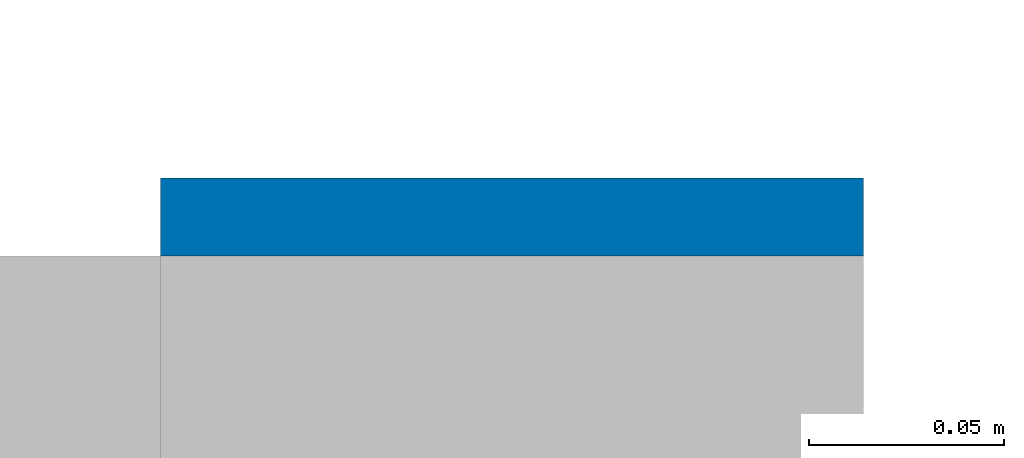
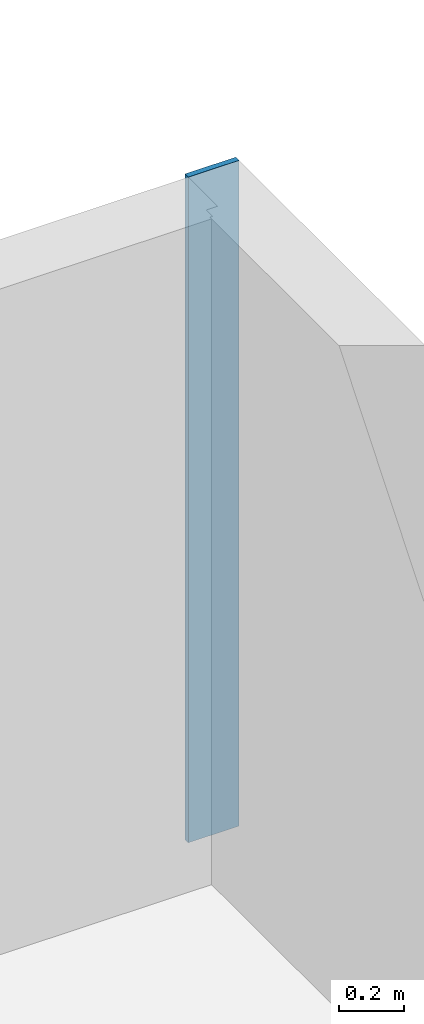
# One storey, part 7 of 10: 1 wall.
"""IFC2X3 building model written with IfcOpenShell, lengths in metres."""

import ifcopenshell
import ifcopenshell.guid

model = None  # the IFC model being written
_history = None  # IfcOwnerHistory: only IFC2X3 demands one
_inside = {}  # id of a spatial element -> (the spatial element, [elements in it])
_under = {}  # id of a project, library or spatial element -> (it, [spatial elements below it])
_declared = {}  # id of a project -> (the project, [libraries it declares])
_typed = {}  # id of a type object -> (the type object, [elements of that type])
_made_of = {}  # id of a material, layer set ... -> (it, [elements and type objects made of it])


def new_model(schema):
    """Start an empty IFC model of exactly this schema.

    Asked for "IFC4X3", IfcOpenShell would pick the latest addendum, in which some entities
    have other attributes; the version numbers below select the first issue.
    IFC2X3 requires an IfcOwnerHistory on every rooted entity: one is made here for all.
    """
    global model, _history
    if schema == "IFC4X3":
        model = ifcopenshell.file(schema_version=(4, 3, 0, 0))
    else:
        model = ifcopenshell.file(schema=schema)
    _inside.clear()
    _under.clear()
    _declared.clear()
    _typed.clear()
    _made_of.clear()
    _history = None
    if model.schema == "IFC2X3":
        org = make("IfcOrganization", Name="unknown")
        user = make(
            "IfcPersonAndOrganization",
            ThePerson=make("IfcPerson", FamilyName="unknown"),
            TheOrganization=org,
        )
        app = make(
            "IfcApplication",
            ApplicationDeveloper=org,
            Version="unknown",
            ApplicationFullName="unknown",
            ApplicationIdentifier="unknown",
        )
        _history = make(
            "IfcOwnerHistory",
            OwningUser=user,
            OwningApplication=app,
            ChangeAction="ADDED",
            CreationDate=0,
        )
    return model


def make(cls, **values):
    """One entity of the class cls with the attributes given. An attribute that is None is left unset."""
    return model.create_entity(
        cls, **{name: value for name, value in values.items() if value is not None}
    )


def rooted(cls, **values):
    """An entity with a GlobalId (a new one), such as an element, a storey or a relation."""
    return make(cls, GlobalId=ifcopenshell.guid.new(), OwnerHistory=_history, **values)


def si_unit(unit_type, name, prefix=None):
    """IfcSIUnit, for example si_unit("LENGTHUNIT", "METRE", prefix="MILLI")."""
    return make("IfcSIUnit", UnitType=unit_type, Prefix=prefix, Name=name)


def assignment(units):
    """IfcUnitAssignment: the units of a project."""
    return None if units is None else make("IfcUnitAssignment", Units=units)


def point(xyz):
    """IfcCartesianPoint."""
    return None if xyz is None else make("IfcCartesianPoint", Coordinates=xyz)


def direction(xyz):
    """IfcDirection."""
    return None if xyz is None else make("IfcDirection", DirectionRatios=xyz)


def frame(location, z_axis=None, x_axis=None):
    """IfcAxis2Placement3D, a coordinate frame: its origin and axes. An axis left out is left unset."""
    return make(
        "IfcAxis2Placement3D",
        Location=point(location),
        Axis=direction(z_axis),
        RefDirection=direction(x_axis),
    )


def frame_2d(location, x_axis=None):
    """IfcAxis2Placement2D, a coordinate frame in the plane: its origin and x axis."""
    return make(
        "IfcAxis2Placement2D", Location=point(location), RefDirection=direction(x_axis)
    )


def origin():
    """The frame at (0, 0, 0) with its axes left unset."""
    return frame((0.0, 0.0, 0.0))


def place(relative_to, where):
    """IfcLocalPlacement: puts the frame where relative to a parent placement (None: the world)."""
    return make(
        "IfcLocalPlacement", PlacementRelTo=relative_to, RelativePlacement=where
    )


def context(
    kind, dimensions, precision=None, world=None, true_north=None, identifier=None
):
    """IfcGeometricRepresentationContext, for example the 3D "Model" context."""
    return make(
        "IfcGeometricRepresentationContext",
        ContextIdentifier=identifier,
        ContextType=kind,
        CoordinateSpaceDimension=dimensions,
        Precision=precision,
        WorldCoordinateSystem=world,
        TrueNorth=true_north,
    )


def project(units=None, contexts=None):
    """IfcProject with its units and contexts."""
    return rooted(
        "IfcProject",
        Name="project",
        RepresentationContexts=contexts,
        UnitsInContext=assignment(units),
    )


def spatial(cls, under=None, at=None, **own):
    """A site, building, storey or space (cls), placed at a placement, below another one or the project."""
    s = rooted(cls, ObjectPlacement=at, **own)
    if under is not None:
        _under.setdefault(under.id(), (under, []))[1].append(s)
    return s


def profile(cls, at=None, kind="AREA", **sizes):
    """A parametric profile (cls). Its sizes go by their IFC names, for example OverallWidth=200.0."""
    return make(cls, ProfileType=kind, Position=at, **sizes)


def rectangle(**sizes):
    """IfcRectangleProfileDef."""
    return profile("IfcRectangleProfileDef", **sizes)


def extrude(swept, where, along, depth):
    """IfcExtrudedAreaSolid: the profile swept, set in the frame where, extruded along a direction by depth."""
    return make(
        "IfcExtrudedAreaSolid",
        SweptArea=swept,
        Position=where,
        ExtrudedDirection=direction(along),
        Depth=depth,
    )


def shape(context_of_items, identifier, shape_type, items):
    """IfcShapeRepresentation: the items that make up one representation, for example the "Body"."""
    return make(
        "IfcShapeRepresentation",
        ContextOfItems=context_of_items,
        RepresentationIdentifier=identifier,
        RepresentationType=shape_type,
        Items=items,
    )


def made_of(thing, what):
    """Note that an element or type object is made of a material, layer set ...; save() writes the relation."""
    if what is not None:
        _made_of.setdefault(what.id(), (what, []))[1].append(thing)
    return thing


def element(
    cls,
    number,
    at=None,
    inside=None,
    cuts=None,
    type_object=None,
    material=None,
    context=None,
    identifier="Body",
    shape_type=None,
    held_by="IfcProductDefinitionShape",
    body=None,
    shapes=None,
    **own,
):
    """One element of the class cls, such as IfcWall. Its Tag is "e" and its number.

    at: its placement. inside: the storey or other place that contains it. cuts: it is an
    opening in that element (IfcRelVoidsElement). A single representation is given by context,
    identifier, shape_type and body (its items); several are given by shapes. held_by: the class
    of the entity that holds the representations. save() writes the other relations.
    """
    e = rooted(cls, Tag="e%d" % number, ObjectPlacement=at, **own)
    if body is not None:
        shapes = [shape(context, identifier, shape_type, body)]
    if shapes is not None:
        e.Representation = make(held_by, Representations=shapes)
    if inside is not None:
        _inside.setdefault(inside.id(), (inside, []))[1].append(e)
    if cuts is not None:
        rooted(
            "IfcRelVoidsElement", RelatingBuildingElement=cuts, RelatedOpeningElement=e
        )
    if type_object is not None:
        _typed.setdefault(type_object.id(), (type_object, []))[1].append(e)
    return made_of(e, material)


def aggregate(whole, parts):
    """IfcRelAggregates: a whole, such as a stair, and the parts it consists of."""
    return rooted("IfcRelAggregates", RelatingObject=whole, RelatedObjects=parts)


def save(model, path):
    """Write the relations noted so far, then the file.

    IfcRelAggregates (storeys below a building ...), IfcRelContainedInSpatialStructure (elements
    in a storey), IfcRelDefinesByType, IfcRelAssociatesMaterial and IfcRelDeclares: one each for
    every whole, place, type object, material and project.
    """
    for whole, parts in _under.values():
        aggregate(whole, parts)
    for where, things in _inside.values():
        rooted(
            "IfcRelContainedInSpatialStructure",
            RelatedElements=things,
            RelatingStructure=where,
        )
    for kind, things in _typed.values():
        rooted("IfcRelDefinesByType", RelatedObjects=things, RelatingType=kind)
    for what, things in _made_of.values():
        rooted("IfcRelAssociatesMaterial", RelatedObjects=things, RelatingMaterial=what)
    for by, libraries in _declared.values():
        rooted("IfcRelDeclares", RelatingContext=by, RelatedDefinitions=libraries)
    model.write(path)


model = new_model("IFC2X3")

# Units and contexts
model_context = context("Model", 3, precision=1e-06, world=origin())
ifc_project = project(units=[si_unit("LENGTHUNIT", "METRE"), si_unit("PLANEANGLEUNIT", "RADIAN")], contexts=[model_context])

# Site, building, storey
site = spatial("IfcSite", under=ifc_project, CompositionType="ELEMENT")
building = spatial("IfcBuilding", under=site, CompositionType="ELEMENT")
storey = spatial("IfcBuildingStorey", under=building, Name="r+1", CompositionType="ELEMENT", Elevation=2.7)

# Wall
placement = place(None, origin())
wall_placement = place(placement, frame((39.69999999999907, 10.470077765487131, 2.7), z_axis=(0.0, 0.0, 1.0), x_axis=(-1.0, 0.0, 0.0)))
element("IfcWall", 1, at=wall_placement, inside=storey, context=model_context, shape_type="SweptSolid", body=[
    extrude(rectangle(XDim=0.18, YDim=0.020000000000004, at=frame_2d((0.09, 0.010000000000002), x_axis=(1.0, 0.0)), kind="CURVE"), frame((0.0, -0.020000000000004, 0.0), z_axis=(0.0, 0.0, 1.0), x_axis=(1.0, 0.0, 0.0)), (0.0, 0.0, 1.0), 2.5),
])

save(model, "model.ifc")
